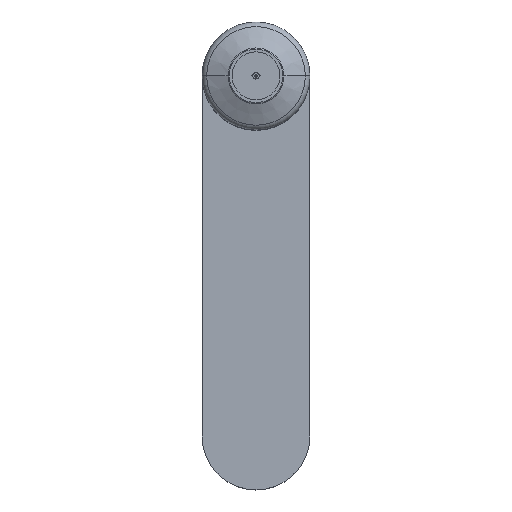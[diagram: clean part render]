
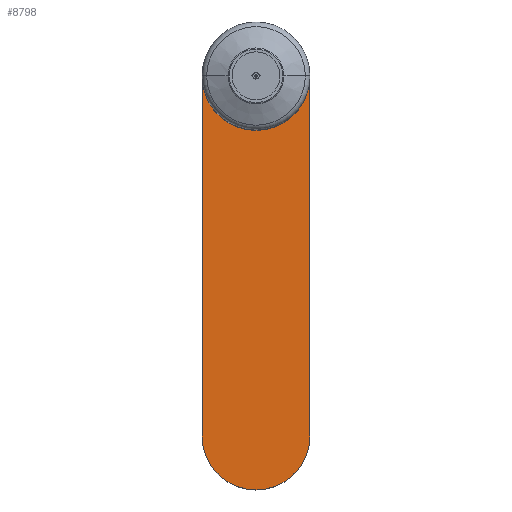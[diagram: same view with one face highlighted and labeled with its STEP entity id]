
A CAD part, top view. The second image highlights one B-rep face of the part: STEP entity #8798.
In plain terms, the highlighted planar face has unit normal (0, 0, 1).
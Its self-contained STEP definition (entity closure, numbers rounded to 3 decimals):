
#39 = DIRECTION ( 'NONE',  ( 0., -1., 0. ) ) ;
#191 = VERTEX_POINT ( 'NONE', #8823 ) ;
#232 = DIRECTION ( 'NONE',  ( 0., -1., 0. ) ) ;
#301 = EDGE_CURVE ( 'NONE', #9048, #3223, #2488, .T. ) ;
#395 = CARTESIAN_POINT ( 'NONE',  ( 0., 0., 15. ) ) ;
#998 = CARTESIAN_POINT ( 'NONE',  ( 0., -13.5, 15. ) ) ;
#1343 = ORIENTED_EDGE ( 'NONE', *, *, #9637, .T. ) ;
#1793 = PLANE ( 'NONE',  #4496 ) ;
#2083 = EDGE_LOOP ( 'NONE', ( #7746, #1343, #5188, #4126, #9111 ) ) ;
#2317 = LINE ( 'NONE', #5860, #10925 ) ;
#2488 = LINE ( 'NONE', #8903, #9665 ) ;
#2547 = CARTESIAN_POINT ( 'NONE',  ( 13.5, 0., 15. ) ) ;
#2709 = DIRECTION ( 'NONE',  ( 0., 0., 1. ) ) ;
#3223 = VERTEX_POINT ( 'NONE', #5986 ) ;
#3520 = DIRECTION ( 'NONE',  ( 0., -1., 0. ) ) ;
#4048 = DIRECTION ( 'NONE',  ( 0., 1., 0. ) ) ;
#4126 = ORIENTED_EDGE ( 'NONE', *, *, #301, .T. ) ;
#4357 = AXIS2_PLACEMENT_3D ( 'NONE', #11001, #7409, #11082 ) ;
#4496 = AXIS2_PLACEMENT_3D ( 'NONE', #5453, #5348, #4572 ) ;
#4572 = DIRECTION ( 'NONE',  ( 0., -1., 0. ) ) ;
#5188 = ORIENTED_EDGE ( 'NONE', *, *, #11730, .T. ) ;
#5340 = EDGE_CURVE ( 'NONE', #3223, #191, #10971, .T. ) ;
#5348 = DIRECTION ( 'NONE',  ( 0., 0., 1. ) ) ;
#5453 = CARTESIAN_POINT ( 'NONE',  ( 0., -90., 15. ) ) ;
#5860 = CARTESIAN_POINT ( 'NONE',  ( 13.5, 0., 15. ) ) ;
#5986 = CARTESIAN_POINT ( 'NONE',  ( -13.5, -90., 15. ) ) ;
#6726 = VERTEX_POINT ( 'NONE', #998 ) ;
#6793 = AXIS2_PLACEMENT_3D ( 'NONE', #8192, #2709, #39 ) ;
#7409 = DIRECTION ( 'NONE',  ( 0., 0., -1. ) ) ;
#7746 = ORIENTED_EDGE ( 'NONE', *, *, #9230, .T. ) ;
#8192 = CARTESIAN_POINT ( 'NONE',  ( 0., -90., 15. ) ) ;
#8492 = FACE_OUTER_BOUND ( 'NONE', #2083, .T. ) ;
#8520 = CIRCLE ( 'NONE', #11636, 13.5 ) ;
#8718 = VERTEX_POINT ( 'NONE', #2547 ) ;
#8798 = ADVANCED_FACE ( 'NONE', ( #8492 ), #1793, .T. ) ;
#8823 = CARTESIAN_POINT ( 'NONE',  ( 13.5, -90., 15. ) ) ;
#8903 = CARTESIAN_POINT ( 'NONE',  ( -13.5, 0., 15. ) ) ;
#9048 = VERTEX_POINT ( 'NONE', #10257 ) ;
#9111 = ORIENTED_EDGE ( 'NONE', *, *, #5340, .T. ) ;
#9230 = EDGE_CURVE ( 'NONE', #191, #8718, #2317, .T. ) ;
#9637 = EDGE_CURVE ( 'NONE', #8718, #6726, #9926, .T. ) ;
#9665 = VECTOR ( 'NONE', #3520, 1000. ) ;
#9926 = CIRCLE ( 'NONE', #4357, 13.5 ) ;
#10257 = CARTESIAN_POINT ( 'NONE',  ( -13.5, 0., 15. ) ) ;
#10925 = VECTOR ( 'NONE', #4048, 1000. ) ;
#10971 = CIRCLE ( 'NONE', #6793, 13.5 ) ;
#11001 = CARTESIAN_POINT ( 'NONE',  ( 0., 0., 15. ) ) ;
#11082 = DIRECTION ( 'NONE',  ( 0., -1., 0. ) ) ;
#11258 = DIRECTION ( 'NONE',  ( 0., 0., -1. ) ) ;
#11636 = AXIS2_PLACEMENT_3D ( 'NONE', #395, #11258, #232 ) ;
#11730 = EDGE_CURVE ( 'NONE', #6726, #9048, #8520, .T. ) ;
